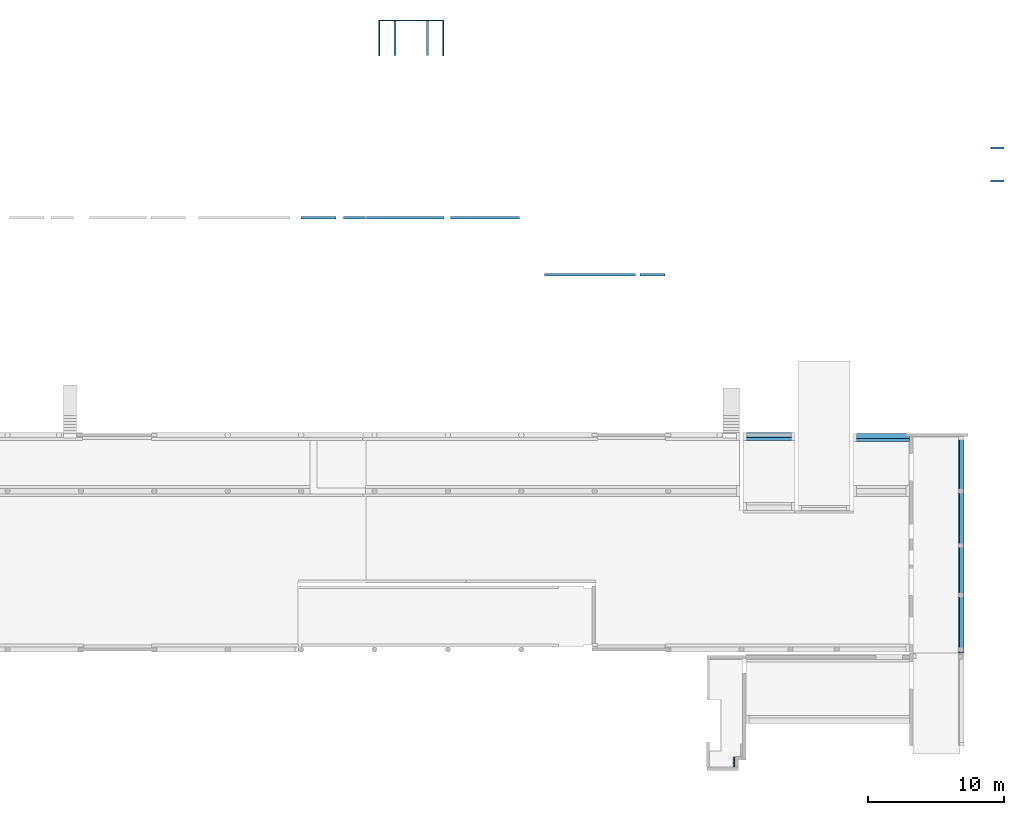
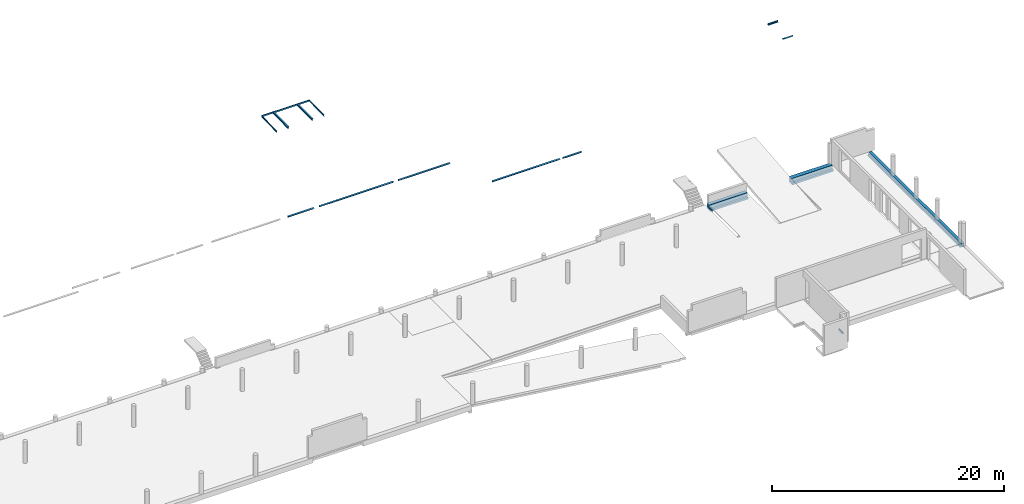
# One storey, part 3 of 9: 17 beams.
"""IFC2X3 building model written with IfcOpenShell, lengths in millimetres."""

import ifcopenshell
import ifcopenshell.guid

model = None  # the IFC model being written
_history = None  # IfcOwnerHistory: only IFC2X3 demands one
_inside = {}  # id of a spatial element -> (the spatial element, [elements in it])
_under = {}  # id of a project, library or spatial element -> (it, [spatial elements below it])
_declared = {}  # id of a project -> (the project, [libraries it declares])
_typed = {}  # id of a type object -> (the type object, [elements of that type])
_made_of = {}  # id of a material, layer set ... -> (it, [elements and type objects made of it])


def new_model(schema):
    """Start an empty IFC model of exactly this schema.

    Asked for "IFC4X3", IfcOpenShell would pick the latest addendum, in which some entities
    have other attributes; the version numbers below select the first issue.
    IFC2X3 requires an IfcOwnerHistory on every rooted entity: one is made here for all.
    """
    global model, _history
    if schema == "IFC4X3":
        model = ifcopenshell.file(schema_version=(4, 3, 0, 0))
    else:
        model = ifcopenshell.file(schema=schema)
    _inside.clear()
    _under.clear()
    _declared.clear()
    _typed.clear()
    _made_of.clear()
    _history = None
    if model.schema == "IFC2X3":
        org = make("IfcOrganization", Name="unknown")
        user = make(
            "IfcPersonAndOrganization",
            ThePerson=make("IfcPerson", FamilyName="unknown"),
            TheOrganization=org,
        )
        app = make(
            "IfcApplication",
            ApplicationDeveloper=org,
            Version="unknown",
            ApplicationFullName="unknown",
            ApplicationIdentifier="unknown",
        )
        _history = make(
            "IfcOwnerHistory",
            OwningUser=user,
            OwningApplication=app,
            ChangeAction="ADDED",
            CreationDate=0,
        )
    return model


def make(cls, **values):
    """One entity of the class cls with the attributes given. An attribute that is None is left unset."""
    return model.create_entity(
        cls, **{name: value for name, value in values.items() if value is not None}
    )


def entity(cls, *values):
    """Any entity or typed value of the class cls, its attributes in the order of the schema. None: left unset."""
    e = model.create_entity(cls)
    for i, value in enumerate(values):
        if value is not None:
            e[i] = value
    return e


def rooted(cls, **values):
    """An entity with a GlobalId (a new one), such as an element, a storey or a relation."""
    return make(cls, GlobalId=ifcopenshell.guid.new(), OwnerHistory=_history, **values)


def si_unit(unit_type, name, prefix=None):
    """IfcSIUnit, for example si_unit("LENGTHUNIT", "METRE", prefix="MILLI")."""
    return make("IfcSIUnit", UnitType=unit_type, Prefix=prefix, Name=name)


def converted_unit(unit_type, name, factor, base, dimensions=None, offset=None):
    """IfcConversionBasedUnit, such as the inch: factor (a typed value) times the base unit."""
    return make(
        "IfcConversionBasedUnit"
        if offset is None
        else "IfcConversionBasedUnitWithOffset",
        ConversionOffset=offset,
        Dimensions=None
        if dimensions is None
        else entity("IfcDimensionalExponents", *dimensions),
        UnitType=unit_type,
        Name=name,
        ConversionFactor=make(
            "IfcMeasureWithUnit", ValueComponent=factor, UnitComponent=base
        ),
    )


def derived_unit(unit_type, elements):
    """IfcDerivedUnit: a product of units, each with its exponent."""
    return make(
        "IfcDerivedUnit",
        Elements=[
            make("IfcDerivedUnitElement", Unit=unit, Exponent=power)
            for unit, power in elements
        ],
        UnitType=unit_type,
    )


def assignment(units):
    """IfcUnitAssignment: the units of a project."""
    return None if units is None else make("IfcUnitAssignment", Units=units)


def point(xyz):
    """IfcCartesianPoint."""
    return None if xyz is None else make("IfcCartesianPoint", Coordinates=xyz)


def direction(xyz):
    """IfcDirection."""
    return None if xyz is None else make("IfcDirection", DirectionRatios=xyz)


def frame(location, z_axis=None, x_axis=None):
    """IfcAxis2Placement3D, a coordinate frame: its origin and axes. An axis left out is left unset."""
    return make(
        "IfcAxis2Placement3D",
        Location=point(location),
        Axis=direction(z_axis),
        RefDirection=direction(x_axis),
    )


def frame_2d(location, x_axis=None):
    """IfcAxis2Placement2D, a coordinate frame in the plane: its origin and x axis."""
    return make(
        "IfcAxis2Placement2D", Location=point(location), RefDirection=direction(x_axis)
    )


def origin():
    """The frame at (0, 0, 0) with its axes left unset."""
    return frame((0.0, 0.0, 0.0))


def place(relative_to, where):
    """IfcLocalPlacement: puts the frame where relative to a parent placement (None: the world)."""
    return make(
        "IfcLocalPlacement", PlacementRelTo=relative_to, RelativePlacement=where
    )


def context(
    kind, dimensions, precision=None, world=None, true_north=None, identifier=None
):
    """IfcGeometricRepresentationContext, for example the 3D "Model" context."""
    return make(
        "IfcGeometricRepresentationContext",
        ContextIdentifier=identifier,
        ContextType=kind,
        CoordinateSpaceDimension=dimensions,
        Precision=precision,
        WorldCoordinateSystem=world,
        TrueNorth=true_north,
    )


def subcontext(parent, identifier, kind, view, scale=None):
    """IfcGeometricRepresentationSubContext, for example "Body" below "Model"."""
    return make(
        "IfcGeometricRepresentationSubContext",
        ContextIdentifier=identifier,
        ContextType=kind,
        ParentContext=parent,
        TargetScale=scale,
        TargetView=view,
    )


def project(units=None, contexts=None):
    """IfcProject with its units and contexts."""
    return rooted(
        "IfcProject",
        Name="project",
        RepresentationContexts=contexts,
        UnitsInContext=assignment(units),
    )


def spatial(cls, under=None, at=None, **own):
    """A site, building, storey or space (cls), placed at a placement, below another one or the project."""
    s = rooted(cls, ObjectPlacement=at, **own)
    if under is not None:
        _under.setdefault(under.id(), (under, []))[1].append(s)
    return s


def polyline(points):
    """IfcPolyline through the points."""
    return make("IfcPolyline", Points=[point(p) for p in points])


def circle_curve(where, radius):
    """IfcCircle in the frame where."""
    return make("IfcCircle", Position=where, Radius=radius)


def parameter(value):
    """IfcParameterValue: where a trimmed curve begins or ends, as a parameter of its basis curve."""
    return model.create_entity("IfcParameterValue", value)


def trimmed(basis, trim1, trim2, sense, master):
    """IfcTrimmedCurve: the piece of a basis curve between two trims."""
    return make(
        "IfcTrimmedCurve",
        BasisCurve=basis,
        Trim1=trim1,
        Trim2=trim2,
        SenseAgreement=sense,
        MasterRepresentation=master,
    )


def segment(curve, same_sense, transition):
    """IfcCompositeCurveSegment."""
    return make(
        "IfcCompositeCurveSegment",
        Transition=transition,
        SameSense=same_sense,
        ParentCurve=curve,
    )


def composite_curve(segments, self_intersect=None):
    """IfcCompositeCurve: segments joined end to end."""
    return make("IfcCompositeCurve", Segments=segments, SelfIntersect=self_intersect)


def profile(cls, at=None, kind="AREA", **sizes):
    """A parametric profile (cls). Its sizes go by their IFC names, for example OverallWidth=200.0."""
    return make(cls, ProfileType=kind, Position=at, **sizes)


def i_section(**sizes):
    """IfcIShapeProfileDef."""
    return profile("IfcIShapeProfileDef", **sizes)


def outline(outer, holes=None, kind="AREA"):
    """IfcArbitraryClosedProfileDef: a profile drawn as a closed curve; with holes, ...WithVoids."""
    if holes is None:
        return make("IfcArbitraryClosedProfileDef", ProfileType=kind, OuterCurve=outer)
    return make(
        "IfcArbitraryProfileDefWithVoids",
        ProfileType=kind,
        OuterCurve=outer,
        InnerCurves=holes,
    )


def extrude(swept, where, along, depth):
    """IfcExtrudedAreaSolid: the profile swept, set in the frame where, extruded along a direction by depth."""
    return make(
        "IfcExtrudedAreaSolid",
        SweptArea=swept,
        Position=where,
        ExtrudedDirection=direction(along),
        Depth=depth,
    )


def shape(context_of_items, identifier, shape_type, items):
    """IfcShapeRepresentation: the items that make up one representation, for example the "Body"."""
    return make(
        "IfcShapeRepresentation",
        ContextOfItems=context_of_items,
        RepresentationIdentifier=identifier,
        RepresentationType=shape_type,
        Items=items,
    )


def material(Name=None, Category=None):
    """IfcMaterial."""
    return make("IfcMaterial", Name=Name, Category=Category)


def made_of(thing, what):
    """Note that an element or type object is made of a material, layer set ...; save() writes the relation."""
    if what is not None:
        _made_of.setdefault(what.id(), (what, []))[1].append(thing)
    return thing


def type_object(cls, material=None, **own):
    """A type object (cls), such as IfcWallType, which elements share."""
    return made_of(rooted(cls, **own), material)


def element(
    cls,
    number,
    at=None,
    inside=None,
    cuts=None,
    type_object=None,
    material=None,
    context=None,
    identifier="Body",
    shape_type=None,
    held_by="IfcProductDefinitionShape",
    body=None,
    shapes=None,
    **own,
):
    """One element of the class cls, such as IfcWall. Its Tag is "e" and its number.

    at: its placement. inside: the storey or other place that contains it. cuts: it is an
    opening in that element (IfcRelVoidsElement). A single representation is given by context,
    identifier, shape_type and body (its items); several are given by shapes. held_by: the class
    of the entity that holds the representations. save() writes the other relations.
    """
    e = rooted(cls, Tag="e%d" % number, ObjectPlacement=at, **own)
    if body is not None:
        shapes = [shape(context, identifier, shape_type, body)]
    if shapes is not None:
        e.Representation = make(held_by, Representations=shapes)
    if inside is not None:
        _inside.setdefault(inside.id(), (inside, []))[1].append(e)
    if cuts is not None:
        rooted(
            "IfcRelVoidsElement", RelatingBuildingElement=cuts, RelatedOpeningElement=e
        )
    if type_object is not None:
        _typed.setdefault(type_object.id(), (type_object, []))[1].append(e)
    return made_of(e, material)


def aggregate(whole, parts):
    """IfcRelAggregates: a whole, such as a stair, and the parts it consists of."""
    return rooted("IfcRelAggregates", RelatingObject=whole, RelatedObjects=parts)


def save(model, path):
    """Write the relations noted so far, then the file.

    IfcRelAggregates (storeys below a building ...), IfcRelContainedInSpatialStructure (elements
    in a storey), IfcRelDefinesByType, IfcRelAssociatesMaterial and IfcRelDeclares: one each for
    every whole, place, type object, material and project.
    """
    for whole, parts in _under.values():
        aggregate(whole, parts)
    for where, things in _inside.values():
        rooted(
            "IfcRelContainedInSpatialStructure",
            RelatedElements=things,
            RelatingStructure=where,
        )
    for kind, things in _typed.values():
        rooted("IfcRelDefinesByType", RelatedObjects=things, RelatingType=kind)
    for what, things in _made_of.values():
        rooted("IfcRelAssociatesMaterial", RelatedObjects=things, RelatingMaterial=what)
    for by, libraries in _declared.values():
        rooted("IfcRelDeclares", RelatingContext=by, RelatedDefinitions=libraries)
    model.write(path)


model = new_model("IFC2X3")

# Units and contexts
model_context = context("Model", 3, precision=0.01, world=origin(), true_north=direction((6.12303176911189e-17, 1.0)))
body_context = subcontext(model_context, "Body", "Model", "MODEL_VIEW")
ifc_project = project(units=[si_unit("LENGTHUNIT", "METRE", prefix="MILLI"), si_unit("AREAUNIT", "SQUARE_METRE"), si_unit("VOLUMEUNIT", "CUBIC_METRE"), converted_unit("PLANEANGLEUNIT", "DEGREE", entity("IfcRatioMeasure", 0.0174532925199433), si_unit("PLANEANGLEUNIT", "RADIAN"), dimensions=[0, 0, 0, 0, 0, 0, 0]), si_unit("MASSUNIT", "GRAM", prefix="KILO"), derived_unit("MASSDENSITYUNIT", [(si_unit("MASSUNIT", "GRAM", prefix="KILO"), 1), (si_unit("LENGTHUNIT", "METRE"), -3)]), si_unit("TIMEUNIT", "SECOND"), si_unit("FREQUENCYUNIT", "HERTZ"), si_unit("THERMODYNAMICTEMPERATUREUNIT", "DEGREE_CELSIUS"), derived_unit("THERMALTRANSMITTANCEUNIT", [(si_unit("MASSUNIT", "GRAM", prefix="KILO"), 1), (si_unit("THERMODYNAMICTEMPERATUREUNIT", "KELVIN"), -1), (si_unit("TIMEUNIT", "SECOND"), -3)]), derived_unit("VOLUMETRICFLOWRATEUNIT", [(si_unit("LENGTHUNIT", "METRE"), 3), (si_unit("TIMEUNIT", "SECOND"), -1)]), si_unit("ELECTRICCURRENTUNIT", "AMPERE"), si_unit("ELECTRICVOLTAGEUNIT", "VOLT"), si_unit("POWERUNIT", "WATT"), si_unit("FORCEUNIT", "NEWTON", prefix="KILO"), si_unit("ILLUMINANCEUNIT", "LUX"), si_unit("LUMINOUSFLUXUNIT", "LUMEN"), si_unit("LUMINOUSINTENSITYUNIT", "CANDELA"), derived_unit("USERDEFINED", [(si_unit("MASSUNIT", "GRAM", prefix="KILO"), -1), (si_unit("LENGTHUNIT", "METRE"), -2), (si_unit("TIMEUNIT", "SECOND"), 3), (si_unit("LUMINOUSFLUXUNIT", "LUMEN"), 1)]), derived_unit("LINEARVELOCITYUNIT", [(si_unit("LENGTHUNIT", "METRE"), 1), (si_unit("TIMEUNIT", "SECOND"), -1)]), si_unit("PRESSUREUNIT", "PASCAL"), derived_unit("USERDEFINED", [(si_unit("LENGTHUNIT", "METRE"), -2), (si_unit("MASSUNIT", "GRAM", prefix="KILO"), 1), (si_unit("TIMEUNIT", "SECOND"), -2)])], contexts=[model_context])

# Site, building, storey
site_placement = place(None, origin())
site = spatial("IfcSite", under=ifc_project, at=site_placement, Name="Default", CompositionType="ELEMENT")
building_placement = place(site_placement, origin())
building = spatial("IfcBuilding", under=site, at=building_placement, Name="niet gebruiken", CompositionType="ELEMENT")
storey_placement = place(building_placement, frame((0.0, 0.0, 2770.0)))
storey = spatial("IfcBuildingStorey", under=building, at=storey_placement, Name="00a eerste tussenverdieping", CompositionType="ELEMENT", Elevation=2770.00000000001)

# Beams
ifc_material_1 = material(Name="NLRS_h2_staal")
beam_type_1 = type_object("IfcBeamType", Name="NLRS_28.11_SF_WPB_stalen ligger hoekprofiel gelijkzijdig_gen:ligger gelijzijdig hoekprofiel LEQU_150x150x15", PredefinedType="BEAM")
beam_1_placement = place(storey_placement, frame((120910.0, 46133.5000000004, -330.0)))
element("IfcBeam", 1, at=beam_1_placement, inside=storey, type_object=beam_type_1, material=ifc_material_1, Name="NLRS_28.11_SF_WPB_stalen ligger hoekprofiel gelijkzijdig_gen:ligger gelijzijdig hoekprofiel LEQU_150x150x15", ObjectType="NLRS_28.11_SF_WPB_stalen ligger hoekprofiel gelijkzijdig_gen:ligger gelijzijdig hoekprofiel LEQU_150x150x15", context=body_context, shape_type="SweptSolid", body=[
    extrude(outline(composite_curve([segment(polyline([(49.6666666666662, -93.3333333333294), (56.6666666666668, -93.3333333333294)]), True, "CONTINUOUS"), segment(polyline([(56.6666666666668, -93.3333333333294), (56.6666666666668, 56.6666666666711)]), True, "CONTINUOUS"), segment(polyline([(56.6666666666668, 56.6666666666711), (-93.3333333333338, 56.6666666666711)]), True, "CONTINUOUS"), segment(polyline([(-93.3333333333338, 56.6666666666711), (-93.3333333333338, 49.6666666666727)]), True, "CONTINUOUS"), segment(trimmed(circle_curve(frame_2d((-85.333333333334, 49.6666666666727), x_axis=(-1.0, 0.0)), 7.99999999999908), [parameter(0.0)], [parameter(90.0000000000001)], True, "PARAMETER"), True, "CONTINUOUS"), segment(polyline([(-85.333333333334, 41.6666666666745), (25.6666666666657, 41.6666666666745)]), True, "CONTINUOUS"), segment(trimmed(circle_curve(frame_2d((25.6666666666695, 25.6666666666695), x_axis=(0.0, 1.0)), 15.9999999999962), [parameter(269.999999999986)], [parameter(0.0)], True, "PARAMETER"), False, "CONTINUOUS"), segment(polyline([(41.6666666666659, 25.6666666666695), (41.6666666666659, -85.3333333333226)]), True, "CONTINUOUS"), segment(trimmed(circle_curve(frame_2d((49.6666666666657, -85.3333333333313), x_axis=(-1.0, 0.0)), 7.99999999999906), [parameter(0.0)], [parameter(90.0000000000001)], True, "PARAMETER"), True, "CONTINUOUS")], self_intersect=False)), frame((0.0, -14.1666666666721, 56.6666666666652), z_axis=(1.0, 0.0, 0.0), x_axis=(0.0, 0.0, -1.0)), (0.0, 0.0, 1.0), 999.999999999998),
])
beam_2_placement = place(storey_placement, frame((120910.0, 43618.5000000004, -330.0)))
element("IfcBeam", 2, at=beam_2_placement, inside=storey, type_object=beam_type_1, material=ifc_material_1, Name="NLRS_28.11_SF_WPB_stalen ligger hoekprofiel gelijkzijdig_gen:ligger gelijzijdig hoekprofiel LEQU_150x150x15", ObjectType="NLRS_28.11_SF_WPB_stalen ligger hoekprofiel gelijkzijdig_gen:ligger gelijzijdig hoekprofiel LEQU_150x150x15", context=body_context, shape_type="SweptSolid", body=[
    extrude(outline(composite_curve([segment(polyline([(-93.3333333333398, -56.6666666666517), (56.6666666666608, -56.6666666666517)]), True, "CONTINUOUS"), segment(polyline([(56.6666666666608, -56.666666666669), (56.6666666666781, 93.3333333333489)]), True, "CONTINUOUS"), segment(polyline([(56.6666666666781, 93.3333333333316), (49.6666666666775, 93.3333333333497)]), True, "CONTINUOUS"), segment(trimmed(circle_curve(frame_2d((49.6666666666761, 85.3333333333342), x_axis=(0.0, 1.0)), 7.99999999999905), [parameter(0.0)], [parameter(90.0000000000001)], True, "PARAMETER"), True, "CONTINUOUS"), segment(polyline([(41.6666666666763, 85.3333333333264), (41.6666666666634, -25.666666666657)]), True, "CONTINUOUS"), segment(trimmed(circle_curve(frame_2d((25.6666666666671, -25.6666666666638), x_axis=(1.0, 0.0)), 15.9999999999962), [parameter(269.999999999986)], [parameter(0.0)], True, "PARAMETER"), False, "CONTINUOUS"), segment(polyline([(25.6666666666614, -41.6666666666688), (-85.3333333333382, -41.6666666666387)]), True, "CONTINUOUS"), segment(trimmed(circle_curve(frame_2d((-85.3333333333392, -49.6666666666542), x_axis=(0.0, 1.0)), 7.99999999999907), [parameter(0.0)], [parameter(90.0000000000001)], True, "PARAMETER"), True, "CONTINUOUS"), segment(polyline([(-93.333333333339, -49.6666666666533), (-93.3333333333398, -56.666666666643)]), True, "CONTINUOUS")], self_intersect=False)), frame((0.0, 14.1666666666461, 56.6666666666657), z_axis=(1.0, 0.0, 0.0), x_axis=(0.0, 0.0, -1.0)), (0.0, 0.0, 1.0), 1000.0),
])
beam_3_placement = place(storey_placement, frame((102082.500278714, 535.0, 1430.0), z_axis=(0.0, 0.0, 1.0), x_axis=(0.0, 1.0, 0.0)))
element("IfcBeam", 3, at=beam_3_placement, inside=storey, type_object=beam_type_1, material=ifc_material_1, Name="NLRS_28.11_SF_WPB_stalen ligger hoekprofiel gelijkzijdig_gen:ligger gelijzijdig hoekprofiel LEQU_150x150x15", ObjectType="NLRS_28.11_SF_WPB_stalen ligger hoekprofiel gelijkzijdig_gen:ligger gelijzijdig hoekprofiel LEQU_150x150x15", context=body_context, shape_type="SweptSolid", body=[
    extrude(outline(composite_curve([segment(polyline([(-93.3333333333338, -56.6666666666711), (56.6666666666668, -56.6666666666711)]), True, "CONTINUOUS"), segment(polyline([(56.6666666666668, -56.6666666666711), (56.6666666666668, 93.3333333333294)]), True, "CONTINUOUS"), segment(polyline([(56.6666666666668, 93.3333333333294), (49.6666666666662, 93.3333333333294)]), True, "CONTINUOUS"), segment(trimmed(circle_curve(frame_2d((49.6666666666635, 85.3333333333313), x_axis=(0.0, 1.0)), 7.99999999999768), [parameter(0.0)], [parameter(90.0000000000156)], True, "PARAMETER"), True, "CONTINUOUS"), segment(polyline([(41.6666666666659, 85.3333333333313), (41.6666666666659, -25.6666666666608)]), True, "CONTINUOUS"), segment(trimmed(circle_curve(frame_2d((25.6666666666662, -25.6666666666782), x_axis=(1.0, 0.0)), 15.9999999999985), [parameter(269.999999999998)], [parameter(0.0)], True, "PARAMETER"), False, "CONTINUOUS"), segment(polyline([(25.6666666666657, -41.6666666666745), (-85.333333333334, -41.6666666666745)]), True, "CONTINUOUS"), segment(trimmed(circle_curve(frame_2d((-85.3333333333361, -49.6666666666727), x_axis=(0.0, 1.0)), 7.99999999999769), [parameter(0.0)], [parameter(90.0000000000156)], True, "PARAMETER"), True, "CONTINUOUS"), segment(polyline([(-93.3333333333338, -49.6666666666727), (-93.3333333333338, -56.6666666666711)]), True, "CONTINUOUS")], self_intersect=False)), frame((0.0, 14.1666666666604, 56.6666666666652), z_axis=(1.0, 0.0, 0.0), x_axis=(0.0, 0.0, -1.0)), (0.0, 0.0, 1.0), 765.0),
])
ifc_material_2 = material(Name="NLRS_f2_beton prefab")
beam_type_2 = type_object("IfcBeamType", Name="NLRS_28.11_SF_WPB_prefabbeton balk enkele sponning_gen:600x540/200x200", PredefinedType="BEAM")
beam_4_placement = place(storey_placement, frame((110845.0, 24801.0, 10.0)))
element("IfcBeam", 4, at=beam_4_placement, inside=storey, type_object=beam_type_2, material=ifc_material_2, Name="NLRS_28.11_SF_WPB_prefabbeton balk enkele sponning_gen:600x540/200x200", ObjectType="NLRS_28.11_SF_WPB_prefabbeton balk enkele sponning_gen:600x540/200x200", context=body_context, shape_type="SweptSolid", body=[
    extrude(outline(polyline([(46.6666666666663, -266.666666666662), (246.666666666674, -266.666666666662), (246.666666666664, 333.333333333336), (-293.333333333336, 333.333333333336), (-293.333333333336, -66.6666666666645), (46.6666666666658, -66.6666666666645), (46.6666666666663, -266.666666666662)])), frame((0.0, -33.3333333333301, -293.333333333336), z_axis=(1.0, 0.0, 0.0), x_axis=(0.0, 0.0, -1.0)), (0.0, 0.0, 1.0), 4105.00081391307),
])
beam_5_placement = place(storey_placement, frame((102725.0, 24876.0, 10.0)))
element("IfcBeam", 5, at=beam_5_placement, inside=storey, type_object=beam_type_2, material=ifc_material_2, Name="NLRS_28.11_SF_WPB_prefabbeton balk enkele sponning_gen:600x540/200x200", ObjectType="NLRS_28.11_SF_WPB_prefabbeton balk enkele sponning_gen:600x540/200x200", context=body_context, shape_type="SweptSolid", body=[
    extrude(outline(polyline([(46.6666666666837, -266.666666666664), (246.666666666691, -266.666666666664), (246.666666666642, 333.333333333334), (-293.333333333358, 333.333333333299), (-293.333333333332, -66.6666666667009), (46.6666666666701, -66.6666666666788), (46.6666666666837, -266.666666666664)])), frame((0.0, -33.3333333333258, -293.333333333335), z_axis=(1.0, 0.0, 0.0), x_axis=(0.0, 0.0, -1.0)), (0.0, 0.0, 1.0), 3800.0),
])
beam_type_3 = type_object("IfcBeamType", Name="NLRS_28.11_SF_WPB_prefabbeton balk enkele sponning_gen:400x385/100x210", PredefinedType="BEAM")
beam_6_placement = place(storey_placement, frame((118750.0, 8944.2707852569, 0.0), z_axis=(0.0, 0.0, 1.0), x_axis=(0.0, 1.0, 0.0)))
element("IfcBeam", 6, at=beam_6_placement, inside=storey, type_object=beam_type_3, material=ifc_material_2, Name="NLRS_28.11_SF_WPB_prefabbeton balk enkele sponning_gen:400x385/100x210", ObjectType="NLRS_28.11_SF_WPB_prefabbeton balk enkele sponning_gen:400x385/100x210", context=body_context, shape_type="SweptSolid", body=[
    extrude(outline(polyline([(-198.333333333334, -233.33333333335), (186.666666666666, -233.33333333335), (186.666666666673, 166.666666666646), (11.6666666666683, 166.666666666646), (11.6666666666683, 66.6666666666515), (-198.333333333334, 66.6666666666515), (-198.333333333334, -233.33333333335)])), frame((0.0, 33.3333333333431, -198.333333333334), z_axis=(1.0, 0.0, 0.0), x_axis=(0.0, 0.0, -1.0)), (0.0, 0.0, 1.0), 15906.7292147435),
])
ifc_material_3 = material(Name="NLRS_h2_staal_gen_rsf")
beam_type_4 = type_object("IfcBeamType", Name="NLRS_28.11_SF_WPB_stalen ligger UNP_gen:160", PredefinedType="BEAM")
beam_7_placement = place(storey_placement, frame((80653.3999999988, 52889.5000000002, 30.0), z_axis=(0.0, -0.0168011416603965, 0.999858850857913), x_axis=(0.0, 0.999858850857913, 0.0168011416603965)))
element("IfcBeam", 7, at=beam_7_placement, inside=storey, type_object=beam_type_4, material=ifc_material_3, Name="NLRS_28.11_SF_WPB_stalen ligger UNP_gen:160", ObjectType="NLRS_28.11_SF_WPB_stalen ligger UNP_gen:160", context=body_context, shape_type="SweptSolid", body=[
    extrude(outline(composite_curve([segment(polyline([(-80.0, -29.2332091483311), (-76.8801012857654, -29.2332091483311)]), True, "CONTINUOUS"), segment(trimmed(circle_curve(frame_2d((-76.8801012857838, -23.7332091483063), x_axis=(0.0, -1.0)), 5.50000000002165), [parameter(0.0)], [parameter(85.4199999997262)], True, "PARAMETER"), True, "CONTINUOUS"), segment(polyline([(-71.3976638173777, -24.1723895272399), (-67.9708870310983, 18.6052261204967)]), True, "CONTINUOUS"), segment(trimmed(circle_curve(frame_2d((-57.5044155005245, 17.7667908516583), x_axis=(-0.996806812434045, 0.079850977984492)), 10.5000000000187), [parameter(274.580000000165)], [parameter(0.0)], True, "PARAMETER"), False, "CONTINUOUS"), segment(polyline([(-57.5044155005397, 28.2667908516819), (57.5044155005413, 28.2667908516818)]), True, "CONTINUOUS"), segment(trimmed(circle_curve(frame_2d((57.5044155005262, 17.7667908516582), x_axis=(0.0, 1.0)), 10.5000000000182), [parameter(274.580000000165)], [parameter(0.0)], True, "PARAMETER"), False, "CONTINUOUS"), segment(polyline([(67.9708870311, 18.6052261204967), (71.3976638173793, -24.1723895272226)]), True, "CONTINUOUS"), segment(trimmed(circle_curve(frame_2d((76.8801012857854, -23.7332091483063), x_axis=(-0.996806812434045, -0.0798509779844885)), 5.50000000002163), [parameter(0.0)], [parameter(85.4199999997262)], True, "PARAMETER"), True, "CONTINUOUS"), segment(polyline([(76.880101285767, -29.2332091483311), (80.0, -29.2332091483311)]), True, "CONTINUOUS"), segment(polyline([(80.0, -29.2332091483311), (80.0, 35.7667908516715)]), True, "CONTINUOUS"), segment(polyline([(80.0, 35.7667908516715), (-80.0, 35.7667908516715)]), True, "CONTINUOUS"), segment(polyline([(-80.0, 35.7667908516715), (-80.0, -29.2332091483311)]), True, "CONTINUOUS")], self_intersect=False)), frame((0.0, -17.3667908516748, 80.0), z_axis=(1.0, 0.0, 0.0), x_axis=(0.0, 0.0, -1.0)), (0.0, 0.0, 1.0), 2618.8696512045),
])
beam_8_placement = place(storey_placement, frame((80635.0, 55461.4000000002, 74.0), z_axis=(0.0, 0.0, 1.0), x_axis=(-1.0, 0.0, 0.0)))
element("IfcBeam", 8, at=beam_8_placement, inside=storey, type_object=beam_type_4, material=ifc_material_3, Name="NLRS_28.11_SF_WPB_stalen ligger UNP_gen:160", ObjectType="NLRS_28.11_SF_WPB_stalen ligger UNP_gen:160", context=body_context, shape_type="SweptSolid", body=[
    extrude(outline(composite_curve([segment(polyline([(-35.7667908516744, -80.0), (29.233209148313, -80.0)]), True, "CONTINUOUS"), segment(polyline([(29.2332091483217, -80.0), (29.2332091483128, -76.8801012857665)]), True, "CONTINUOUS"), segment(trimmed(circle_curve(frame_2d((23.7332091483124, -76.8801012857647), x_axis=(1.0, 0.0)), 5.49999999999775), [parameter(0.0)], [parameter(85.4200000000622)], True, "PARAMETER"), True, "CONTINUOUS"), segment(polyline([(24.1723895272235, -71.3976638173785), (-18.6052261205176, -67.9708870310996)]), True, "CONTINUOUS"), segment(trimmed(circle_curve(frame_2d((-17.7667908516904, -57.5044155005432), x_axis=(-0.0798509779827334, -0.996806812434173)), 10.499999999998), [parameter(274.57999999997)], [parameter(0.0)], True, "PARAMETER"), False, "CONTINUOUS"), segment(polyline([(-28.2667908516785, -57.5044155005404), (-28.2667908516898, 57.5044155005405)]), True, "CONTINUOUS"), segment(trimmed(circle_curve(frame_2d((-17.7667908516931, 57.5044155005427), x_axis=(-1.0, 0.0)), 10.4999999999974), [parameter(274.579999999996)], [parameter(0.0)], True, "PARAMETER"), False, "CONTINUOUS"), segment(polyline([(-18.6052261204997, 67.9708870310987), (24.172389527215, 71.3976638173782)]), True, "CONTINUOUS"), segment(trimmed(circle_curve(frame_2d((23.7332091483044, 76.8801012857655), x_axis=(0.0798509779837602, -0.996806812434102)), 5.49999999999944), [parameter(0.0)], [parameter(85.419999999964)], True, "PARAMETER"), True, "CONTINUOUS"), segment(polyline([(29.233209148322, 76.8801012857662), (29.2332091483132, 80.0)]), True, "CONTINUOUS"), segment(polyline([(29.2332091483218, 80.0), (-35.7667908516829, 80.0)]), True, "CONTINUOUS"), segment(polyline([(-35.7667908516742, 80.0), (-35.766790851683, -80.0)]), True, "CONTINUOUS")], self_intersect=False)), frame((0.0, -15.9861703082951, 80.2872828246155), z_axis=(1.0, 0.0, 0.0), x_axis=(0.0, -0.999851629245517, 0.0172255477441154)), (0.0, 0.0, 1.0), 4670.0),
])
beam_9_placement = place(storey_placement, frame((75946.5999999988, 55508.0, 74.0), z_axis=(0.0, -0.0168011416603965, 0.999858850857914), x_axis=(0.0, -0.999858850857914, -0.0168011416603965)))
element("IfcBeam", 9, at=beam_9_placement, inside=storey, type_object=beam_type_4, material=ifc_material_3, Name="NLRS_28.11_SF_WPB_stalen ligger UNP_gen:160", ObjectType="NLRS_28.11_SF_WPB_stalen ligger UNP_gen:160", context=body_context, shape_type="SweptSolid", body=[
    extrude(outline(composite_curve([segment(polyline([(-80.0, -29.2332091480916), (-76.8801012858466, -29.2332091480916)]), True, "CONTINUOUS"), segment(trimmed(circle_curve(frame_2d((-76.8801012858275, -23.7332091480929), x_axis=(0.0, -1.0)), 5.49999999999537), [parameter(0.0)], [parameter(85.4200000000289)], True, "PARAMETER"), True, "CONTINUOUS"), segment(polyline([(-71.3976638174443, -24.172389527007), (-67.9708870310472, 18.6052261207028)]), True, "CONTINUOUS"), segment(trimmed(circle_curve(frame_2d((-57.5044155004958, 17.7667908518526), x_axis=(-0.996806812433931, 0.079850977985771)), 10.499999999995), [parameter(274.57999999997)], [parameter(0.0)], True, "PARAMETER"), False, "CONTINUOUS"), segment(polyline([(-57.5044155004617, 28.2667908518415), (57.5044155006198, 28.2667908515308)]), True, "CONTINUOUS"), segment(trimmed(circle_curve(frame_2d((57.5044155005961, 17.7667908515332), x_axis=(0.0, 1.0)), 10.4999999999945), [parameter(274.579999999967)], [parameter(0.0)], True, "PARAMETER"), False, "CONTINUOUS"), segment(polyline([(67.9708870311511, 18.6052261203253), (71.3976638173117, -24.1723895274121)]), True, "CONTINUOUS"), segment(trimmed(circle_curve(frame_2d((76.8801012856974, -23.7332091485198), x_axis=(-0.996806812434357, -0.0798509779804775)), 5.49999999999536), [parameter(0.0)], [parameter(85.4200000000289)], True, "PARAMETER"), True, "CONTINUOUS"), segment(polyline([(76.8801012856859, -29.2332091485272), (80.0, -29.2332091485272)]), True, "CONTINUOUS"), segment(polyline([(80.0, -29.2332091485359), (80.0, 35.7667908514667)]), True, "CONTINUOUS"), segment(polyline([(80.0, 35.7667908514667), (-80.0, 35.7667908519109)]), True, "CONTINUOUS"), segment(polyline([(-80.0, 35.7667908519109), (-80.0, -29.2332091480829)]), True, "CONTINUOUS")], self_intersect=False)), frame((0.0, -17.3667908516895, 80.0), z_axis=(1.0, 0.0, 0.0), x_axis=(0.0, 0.0, -1.0)), (0.0, 0.0, 1.0), 2618.8696512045),
])
beam_type_5 = type_object("IfcBeamType", Name="NLRS_28.11_SF_WPB_stalen ligger HEB_gen:ligger HEB 160", PredefinedType="BEAM")
beam_10_placement = place(storey_placement, frame((79500.0, 52889.5000000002, 30.0), z_axis=(0.0, -0.0172286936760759, 0.999851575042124), x_axis=(0.0, 0.999851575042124, 0.0172286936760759)))
element("IfcBeam", 10, at=beam_10_placement, inside=storey, type_object=beam_type_5, material=ifc_material_1, Name="NLRS_28.11_SF_WPB_stalen ligger HEB_gen:ligger HEB 160", ObjectType="NLRS_28.11_SF_WPB_stalen ligger HEB_gen:ligger HEB 160", context=body_context, shape_type="SweptSolid", body=[
    extrude(i_section(OverallWidth=159.999999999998, OverallDepth=160.0, WebThickness=7.99999999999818, FlangeThickness=12.999999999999, FilletRadius=14.9999999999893, at=frame_2d((-1.08713038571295e-12, 0.0), x_axis=(0.0, 1.0))), frame((0.0, 0.0, 80.0), z_axis=(1.0, 0.0, 0.0), x_axis=(0.0, 0.0, -1.0)), (0.0, 0.0, 1.0), 2553.87905939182),
])
beam_11_placement = place(storey_placement, frame((77100.0, 52889.5000000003, 30.0), z_axis=(0.0, -0.0172286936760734, 0.999851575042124), x_axis=(0.0, 0.999851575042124, 0.0172286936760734)))
element("IfcBeam", 11, at=beam_11_placement, inside=storey, type_object=beam_type_5, material=ifc_material_1, Name="NLRS_28.11_SF_WPB_stalen ligger HEB_gen:ligger HEB 160", ObjectType="NLRS_28.11_SF_WPB_stalen ligger HEB_gen:ligger HEB 160", context=body_context, shape_type="SweptSolid", body=[
    extrude(i_section(OverallWidth=160.000000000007, OverallDepth=160.0, WebThickness=7.99999999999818, FlangeThickness=12.999999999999, FilletRadius=14.9999999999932, at=frame_2d((-1.08713038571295e-12, -1.29958266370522e-11), x_axis=(0.0, 1.0))), frame((0.0, 0.0, 80.0), z_axis=(1.0, 0.0, 0.0), x_axis=(0.0, 0.0, -1.0)), (0.0, 0.0, 1.0), 2553.87905939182),
])
beam_type_6 = type_object("IfcBeamType", Name="NLRS_28.11_SF_WPB_stalen ligger hoekprofiel gelijkzijdig_gen:ligger gelijzijdig hoekprofiel LEQU_200x200x16", PredefinedType="BEAM")
beam_12_placement = place(storey_placement, frame((70200.0, 41061.0, 440.0)))
element("IfcBeam", 12, at=beam_12_placement, inside=storey, type_object=beam_type_6, material=ifc_material_1, Name="NLRS_28.11_SF_WPB_stalen ligger hoekprofiel gelijkzijdig_gen:ligger gelijzijdig hoekprofiel LEQU_200x200x16", ObjectType="NLRS_28.11_SF_WPB_stalen ligger hoekprofiel gelijkzijdig_gen:ligger gelijzijdig hoekprofiel LEQU_200x200x16", context=body_context, shape_type="SweptSolid", body=[
    extrude(outline(composite_curve([segment(polyline([(-73.77777777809, -126.222222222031), (-66.7777777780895, -126.222222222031)]), True, "CONTINUOUS"), segment(trimmed(circle_curve(frame_2d((-66.7777777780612, -117.222222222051), x_axis=(0.0, -1.0)), 8.99999999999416), [parameter(0.0)], [parameter(90.000000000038)], True, "PARAMETER"), True, "CONTINUOUS"), segment(polyline([(-57.7777777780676, -117.222222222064), (-57.7777777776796, 39.7777777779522)]), True, "CONTINUOUS"), segment(trimmed(circle_curve(frame_2d((-39.7777777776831, 39.7777777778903), x_axis=(-1.0, 0.0)), 17.9999999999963), [parameter(269.999999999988)], [parameter(0.0)], True, "PARAMETER"), False, "CONTINUOUS"), segment(polyline([(-39.7777777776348, 57.7777777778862), (117.222222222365, 57.7777777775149)]), True, "CONTINUOUS"), segment(trimmed(circle_curve(frame_2d((117.222222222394, 66.7777777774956), x_axis=(0.0, -1.0)), 8.99999999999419), [parameter(0.0)], [parameter(90.000000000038)], True, "PARAMETER"), True, "CONTINUOUS"), segment(polyline([(126.222222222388, 66.7777777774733), (126.222222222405, 73.777777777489)]), True, "CONTINUOUS"), segment(polyline([(126.222222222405, 73.7777777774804), (-73.7777777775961, 73.7777777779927)]), True, "CONTINUOUS"), segment(polyline([(-73.7777777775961, 73.7777777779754), (-73.7777777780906, -126.222222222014)]), True, "CONTINUOUS")], self_intersect=False)), frame((0.0, -73.7777777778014, -73.7777777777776), z_axis=(1.0, 0.0, 0.0), x_axis=(0.0, 0.0, -1.0)), (0.0, 0.0, 1.0), 2550.00000000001),
])
beam_13_placement = place(storey_placement, frame((73300.0, 41061.0, 440.0)))
element("IfcBeam", 13, at=beam_13_placement, inside=storey, type_object=beam_type_6, material=ifc_material_1, Name="NLRS_28.11_SF_WPB_stalen ligger hoekprofiel gelijkzijdig_gen:ligger gelijzijdig hoekprofiel LEQU_200x200x16", ObjectType="NLRS_28.11_SF_WPB_stalen ligger hoekprofiel gelijkzijdig_gen:ligger gelijzijdig hoekprofiel LEQU_200x200x16", context=body_context, shape_type="SweptSolid", body=[
    extrude(outline(composite_curve([segment(polyline([(-73.7777777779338, -126.222222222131), (-66.7777777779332, -126.222222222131)]), True, "CONTINUOUS"), segment(trimmed(circle_curve(frame_2d((-66.7777777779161, -117.222222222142), x_axis=(0.0, -1.0)), 8.99999999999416), [parameter(0.0)], [parameter(90.000000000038)], True, "PARAMETER"), True, "CONTINUOUS"), segment(polyline([(-57.7777777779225, -117.222222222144), (-57.7777777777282, 39.7777777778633)]), True, "CONTINUOUS"), segment(trimmed(circle_curve(frame_2d((-39.7777777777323, 39.7777777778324), x_axis=(-1.0, 0.0)), 17.9999999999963), [parameter(269.999999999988)], [parameter(0.0)], True, "PARAMETER"), False, "CONTINUOUS"), segment(polyline([(-39.7777777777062, 57.7777777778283), (117.222222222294, 57.7777777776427)]), True, "CONTINUOUS"), segment(trimmed(circle_curve(frame_2d((117.222222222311, 66.777777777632), x_axis=(0.0, -1.0)), 8.99999999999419), [parameter(0.0)], [parameter(90.000000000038)], True, "PARAMETER"), True, "CONTINUOUS"), segment(polyline([(126.222222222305, 66.7777777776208), (126.222222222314, 73.7777777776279)]), True, "CONTINUOUS"), segment(polyline([(126.222222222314, 73.7777777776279), (-73.7777777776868, 73.7777777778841)]), True, "CONTINUOUS"), segment(polyline([(-73.7777777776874, 73.7777777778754), (-73.7777777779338, -126.222222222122)]), True, "CONTINUOUS")], self_intersect=False)), frame((0.0, -73.7777777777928, -73.7777777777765), z_axis=(1.0, 0.0, 0.0), x_axis=(0.0, 0.0, -1.0)), (0.0, 0.0, 1.0), 1650.00000000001),
])
beam_14_placement = place(storey_placement, frame((74995.0, 41061.0, 440.0)))
element("IfcBeam", 14, at=beam_14_placement, inside=storey, type_object=beam_type_6, material=ifc_material_1, Name="NLRS_28.11_SF_WPB_stalen ligger hoekprofiel gelijkzijdig_gen:ligger gelijzijdig hoekprofiel LEQU_200x200x16", ObjectType="NLRS_28.11_SF_WPB_stalen ligger hoekprofiel gelijkzijdig_gen:ligger gelijzijdig hoekprofiel LEQU_200x200x16", context=body_context, shape_type="SweptSolid", body=[
    extrude(outline(composite_curve([segment(polyline([(-73.7777777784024, -126.222222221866), (-66.7777777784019, -126.222222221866)]), True, "CONTINUOUS"), segment(trimmed(circle_curve(frame_2d((-66.7777777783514, -117.222222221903), x_axis=(0.0, -1.0)), 8.99999999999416), [parameter(0.0)], [parameter(90.000000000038)], True, "PARAMETER"), True, "CONTINUOUS"), segment(polyline([(-57.7777777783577, -117.222222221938), (-57.7777777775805, 39.7777777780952)]), True, "CONTINUOUS"), segment(trimmed(circle_curve(frame_2d((-39.7777777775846, 39.7777777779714), x_axis=(-1.0, 0.0)), 17.9999999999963), [parameter(269.999999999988)], [parameter(0.0)], True, "PARAMETER"), False, "CONTINUOUS"), segment(polyline([(-39.7777777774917, 57.7777777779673), (117.222222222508, 57.7777777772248)]), True, "CONTINUOUS"), segment(trimmed(circle_curve(frame_2d((117.222222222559, 66.7777777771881), x_axis=(0.0, -1.0)), 8.99999999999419), [parameter(0.0)], [parameter(90.000000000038)], True, "PARAMETER"), True, "CONTINUOUS"), segment(polyline([(126.222222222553, 66.7777777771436), (126.222222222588, 73.7777777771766)]), True, "CONTINUOUS"), segment(polyline([(126.222222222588, 73.7777777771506), (-73.7777777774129, 73.7777777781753)]), True, "CONTINUOUS"), segment(polyline([(-73.7777777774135, 73.7777777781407), (-73.7777777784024, -126.222222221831)]), True, "CONTINUOUS")], self_intersect=False)), frame((0.0, -73.7777777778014, -73.7777777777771), z_axis=(1.0, 0.0, 0.0), x_axis=(0.0, 0.0, -1.0)), (0.0, 0.0, 1.0), 5700.0),
])
beam_15_placement = place(storey_placement, frame((81175.0, 41061.0, 440.0)))
element("IfcBeam", 15, at=beam_15_placement, inside=storey, type_object=beam_type_6, material=ifc_material_1, Name="NLRS_28.11_SF_WPB_stalen ligger hoekprofiel gelijkzijdig_gen:ligger gelijzijdig hoekprofiel LEQU_200x200x16", ObjectType="NLRS_28.11_SF_WPB_stalen ligger hoekprofiel gelijkzijdig_gen:ligger gelijzijdig hoekprofiel LEQU_200x200x16", context=body_context, shape_type="SweptSolid", body=[
    extrude(outline(composite_curve([segment(polyline([(-73.7777777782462, -126.222222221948), (-66.7777777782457, -126.222222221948)]), True, "CONTINUOUS"), segment(trimmed(circle_curve(frame_2d((-66.7777777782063, -117.222222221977), x_axis=(0.0, -1.0)), 8.99999999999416), [parameter(0.0)], [parameter(90.000000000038)], True, "PARAMETER"), True, "CONTINUOUS"), segment(polyline([(-57.7777777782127, -117.222222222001), (-57.7777777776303, 39.7777777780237)]), True, "CONTINUOUS"), segment(trimmed(circle_curve(frame_2d((-39.7777777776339, 39.7777777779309), x_axis=(-1.0, 0.0)), 17.9999999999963), [parameter(269.999999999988)], [parameter(0.0)], True, "PARAMETER"), False, "CONTINUOUS"), segment(polyline([(-39.7777777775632, 57.7777777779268), (117.222222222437, 57.7777777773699)]), True, "CONTINUOUS"), segment(trimmed(circle_curve(frame_2d((117.222222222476, 66.7777777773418), x_axis=(0.0, -1.0)), 8.99999999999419), [parameter(0.0)], [parameter(90.000000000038)], True, "PARAMETER"), True, "CONTINUOUS"), segment(polyline([(126.22222222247, 66.7777777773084), (126.222222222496, 73.7777777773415)]), True, "CONTINUOUS"), segment(polyline([(126.222222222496, 73.7777777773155), (-73.7777777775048, 73.777777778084)]), True, "CONTINUOUS"), segment(polyline([(-73.7777777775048, 73.777777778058), (-73.7777777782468, -126.222222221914)]), True, "CONTINUOUS")], self_intersect=False)), frame((0.0, -73.7777777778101, -73.7777777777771), z_axis=(1.0, 0.0, 0.0), x_axis=(0.0, 0.0, -1.0)), (0.0, 0.0, 1.0), 5100.00000000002),
])
beam_16_placement = place(storey_placement, frame((88115.0, 36856.0, 440.0)))
element("IfcBeam", 16, at=beam_16_placement, inside=storey, type_object=beam_type_6, material=ifc_material_1, Name="NLRS_28.11_SF_WPB_stalen ligger hoekprofiel gelijkzijdig_gen:ligger gelijzijdig hoekprofiel LEQU_200x200x16", ObjectType="NLRS_28.11_SF_WPB_stalen ligger hoekprofiel gelijkzijdig_gen:ligger gelijzijdig hoekprofiel LEQU_200x200x16", context=body_context, shape_type="SweptSolid", body=[
    extrude(outline(composite_curve([segment(polyline([(-73.7777777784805, -126.222222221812), (-66.77777777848, -126.222222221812)]), True, "CONTINUOUS"), segment(trimmed(circle_curve(frame_2d((-66.7777777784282, -117.222222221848), x_axis=(0.0, -1.0)), 8.9999999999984), [parameter(0.0)], [parameter(90.0000000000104)], True, "PARAMETER"), True, "CONTINUOUS"), segment(polyline([(-57.7777777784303, -117.222222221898), (-57.7777777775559, 39.7777777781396)]), True, "CONTINUOUS"), segment(trimmed(circle_curve(frame_2d((-39.7777777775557, 39.7777777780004), x_axis=(-1.0, 0.0)), 18.0000000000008), [parameter(270.000000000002)], [parameter(0.0)], True, "PARAMETER"), False, "CONTINUOUS"), segment(polyline([(-39.777777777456, 57.7777777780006), (117.222222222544, 57.7777777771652)]), True, "CONTINUOUS"), segment(trimmed(circle_curve(frame_2d((117.222222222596, 66.7777777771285), x_axis=(0.0, -1.0)), 8.99999999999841), [parameter(0.0)], [parameter(90.0000000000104)], True, "PARAMETER"), True, "CONTINUOUS"), segment(polyline([(126.222222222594, 66.7777777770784), (126.222222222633, 73.7777777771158)]), True, "CONTINUOUS"), segment(polyline([(126.222222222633, 73.7777777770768), (-73.7777777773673, 73.7777777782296)]), True, "CONTINUOUS"), segment(polyline([(-73.7777777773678, 73.7777777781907), (-73.7777777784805, -126.222222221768)]), True, "CONTINUOUS")], self_intersect=False)), frame((0.0, -73.7777777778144, -73.7777777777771), z_axis=(1.0, 0.0, 0.0), x_axis=(0.0, 0.0, -1.0)), (0.0, 0.0, 1.0), 6694.99175609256),
])
beam_17_placement = place(storey_placement, frame((95135.0, 36856.0, 440.0)))
element("IfcBeam", 17, at=beam_17_placement, inside=storey, type_object=beam_type_6, material=ifc_material_1, Name="NLRS_28.11_SF_WPB_stalen ligger hoekprofiel gelijkzijdig_gen:ligger gelijzijdig hoekprofiel LEQU_200x200x16", ObjectType="NLRS_28.11_SF_WPB_stalen ligger hoekprofiel gelijkzijdig_gen:ligger gelijzijdig hoekprofiel LEQU_200x200x16", context=body_context, shape_type="SweptSolid", body=[
    extrude(outline(composite_curve([segment(polyline([(-73.7777777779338, -126.222222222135), (-66.7777777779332, -126.222222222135)]), True, "CONTINUOUS"), segment(trimmed(circle_curve(frame_2d((-66.7777777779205, -117.222222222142), x_axis=(0.0, -1.0)), 8.9999999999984), [parameter(0.0)], [parameter(90.0000000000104)], True, "PARAMETER"), True, "CONTINUOUS"), segment(polyline([(-57.7777777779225, -117.222222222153), (-57.7777777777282, 39.777777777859)]), True, "CONTINUOUS"), segment(trimmed(circle_curve(frame_2d((-39.777777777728, 39.7777777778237), x_axis=(-1.0, 0.0)), 18.0000000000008), [parameter(270.000000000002)], [parameter(0.0)], True, "PARAMETER"), False, "CONTINUOUS"), segment(polyline([(-39.7777777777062, 57.777777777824), (117.222222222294, 57.7777777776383)]), True, "CONTINUOUS"), segment(trimmed(circle_curve(frame_2d((117.222222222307, 66.777777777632), x_axis=(0.0, -1.0)), 8.99999999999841), [parameter(0.0)], [parameter(90.0000000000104)], True, "PARAMETER"), True, "CONTINUOUS"), segment(polyline([(126.222222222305, 66.7777777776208), (126.222222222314, 73.7777777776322)]), True, "CONTINUOUS"), segment(polyline([(126.222222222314, 73.7777777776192), (-73.7777777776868, 73.7777777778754)]), True, "CONTINUOUS"), segment(polyline([(-73.7777777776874, 73.7777777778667), (-73.7777777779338, -126.222222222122)]), True, "CONTINUOUS")], self_intersect=False)), frame((0.0, -73.7777777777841, -73.7777777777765), z_axis=(1.0, 0.0, 0.0), x_axis=(0.0, 0.0, -1.0)), (0.0, 0.0, 1.0), 1830.0),
])

save(model, "model.ifc")
